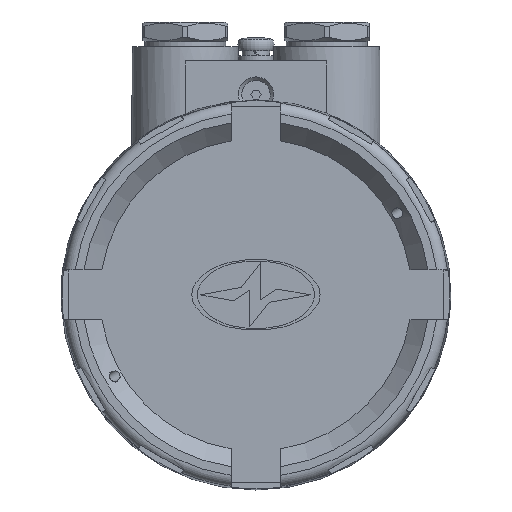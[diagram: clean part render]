
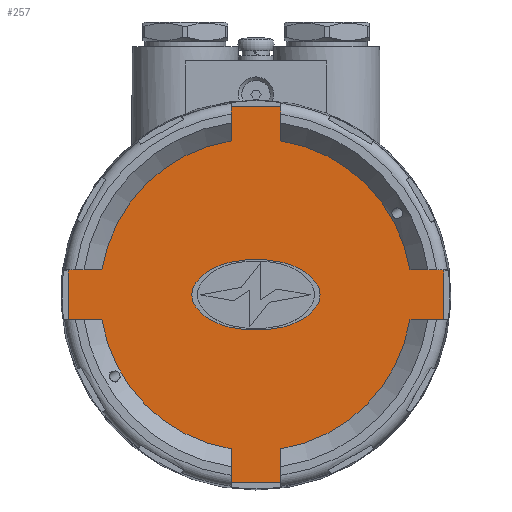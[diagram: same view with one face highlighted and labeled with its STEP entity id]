
A CAD part, top view. The second image highlights one B-rep face of the part: STEP entity #257.
In plain terms, the highlighted planar face has unit normal (0, 0, 1).
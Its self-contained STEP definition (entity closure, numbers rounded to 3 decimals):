
#257=ADVANCED_FACE('',(#1956,#1958),#1960,.T.);
#1956=FACE_BOUND('',#1957,.T.);
#1957=EDGE_LOOP('',(#5340,#5341,#5342,#5343,#5344,#5345,#5346,#5347,#5348,#5349,
#5350,#5351,#5352,#5353,#5354,#5355));
#1958=FACE_BOUND('',#1959,.T.);
#1959=EDGE_LOOP('',(#5356,#5357,#5358,#5359,#5360,#5361,#5362,#5363,#5364,#5365,
#5366,#5367));
#1960=PLANE('',#1961);
#1961=AXIS2_PLACEMENT_3D('',#1962,#1963,#1964);
#1962=CARTESIAN_POINT('',(0.,22.,110.));
#1963=DIRECTION('',(0.,0.,1.));
#1964=DIRECTION('',(-1.,0.,0.));
#5340=ORIENTED_EDGE('',*,*,#8758,.T.);
#5341=ORIENTED_EDGE('',*,*,#8585,.T.);
#5342=ORIENTED_EDGE('',*,*,#8759,.T.);
#5343=ORIENTED_EDGE('',*,*,#8560,.F.);
#5344=ORIENTED_EDGE('',*,*,#8757,.T.);
#5345=ORIENTED_EDGE('',*,*,#8675,.T.);
#5346=ORIENTED_EDGE('',*,*,#8760,.T.);
#5347=ORIENTED_EDGE('',*,*,#8650,.T.);
#5348=ORIENTED_EDGE('',*,*,#8761,.T.);
#5349=ORIENTED_EDGE('',*,*,#8645,.F.);
#5350=ORIENTED_EDGE('',*,*,#8762,.T.);
#5351=ORIENTED_EDGE('',*,*,#8620,.T.);
#5352=ORIENTED_EDGE('',*,*,#8763,.T.);
#5353=ORIENTED_EDGE('',*,*,#8615,.F.);
#5354=ORIENTED_EDGE('',*,*,#8764,.T.);
#5355=ORIENTED_EDGE('',*,*,#8590,.F.);
#5356=ORIENTED_EDGE('',*,*,#8765,.T.);
#5357=ORIENTED_EDGE('',*,*,#8766,.T.);
#5358=ORIENTED_EDGE('',*,*,#8767,.T.);
#5359=ORIENTED_EDGE('',*,*,#8768,.T.);
#5360=ORIENTED_EDGE('',*,*,#8769,.T.);
#5361=ORIENTED_EDGE('',*,*,#8770,.T.);
#5362=ORIENTED_EDGE('',*,*,#8771,.T.);
#5363=ORIENTED_EDGE('',*,*,#8772,.T.);
#5364=ORIENTED_EDGE('',*,*,#8773,.T.);
#5365=ORIENTED_EDGE('',*,*,#8774,.T.);
#5366=ORIENTED_EDGE('',*,*,#8775,.T.);
#5367=ORIENTED_EDGE('',*,*,#8776,.T.);
#8560=EDGE_CURVE('',#10570,#10571,#10572,.T.);
#8585=EDGE_CURVE('',#10610,#10608,#10611,.T.);
#8590=EDGE_CURVE('',#10618,#10619,#10620,.T.);
#8615=EDGE_CURVE('',#10656,#10658,#10659,.T.);
#8620=EDGE_CURVE('',#10666,#10667,#10668,.T.);
#8645=EDGE_CURVE('',#10704,#10706,#10707,.T.);
#8650=EDGE_CURVE('',#10714,#10715,#10716,.T.);
#8675=EDGE_CURVE('',#10754,#10752,#10755,.T.);
#8757=EDGE_CURVE('',#10570,#10754,#10892,.T.);
#8758=EDGE_CURVE('',#10618,#10610,#10893,.T.);
#8759=EDGE_CURVE('',#10608,#10571,#10894,.T.);
#8760=EDGE_CURVE('',#10752,#10714,#10895,.T.);
#8761=EDGE_CURVE('',#10715,#10706,#10896,.T.);
#8762=EDGE_CURVE('',#10704,#10666,#10897,.T.);
#8763=EDGE_CURVE('',#10667,#10658,#10898,.T.);
#8764=EDGE_CURVE('',#10656,#10619,#10899,.T.);
#8765=EDGE_CURVE('',#10900,#10901,#10902,.T.);
#8766=EDGE_CURVE('',#10901,#10903,#10904,.T.);
#8767=EDGE_CURVE('',#10903,#10905,#10906,.T.);
#8768=EDGE_CURVE('',#10905,#10907,#10908,.T.);
#8769=EDGE_CURVE('',#10907,#10909,#10910,.T.);
#8770=EDGE_CURVE('',#10909,#10911,#10912,.T.);
#8771=EDGE_CURVE('',#10911,#10913,#10914,.T.);
#8772=EDGE_CURVE('',#10913,#10915,#10916,.T.);
#8773=EDGE_CURVE('',#10915,#10917,#10918,.T.);
#8774=EDGE_CURVE('',#10917,#10919,#10920,.T.);
#8775=EDGE_CURVE('',#10919,#10921,#10922,.T.);
#8776=EDGE_CURVE('',#10921,#10900,#10923,.T.);
#10570=VERTEX_POINT('',#18067);
#10571=VERTEX_POINT('',#18068);
#10572=LINE('',#18069,#18070);
#10608=VERTEX_POINT('',#18548);
#10610=VERTEX_POINT('',#18562);
#10611=LINE('',#18563,#18564);
#10618=VERTEX_POINT('',#18580);
#10619=VERTEX_POINT('',#18581);
#10620=LINE('',#18582,#18583);
#10656=VERTEX_POINT('',#19059);
#10658=VERTEX_POINT('',#19073);
#10659=LINE('',#19074,#19075);
#10666=VERTEX_POINT('',#19091);
#10667=VERTEX_POINT('',#19092);
#10668=LINE('',#19093,#19094);
#10704=VERTEX_POINT('',#19568);
#10706=VERTEX_POINT('',#19582);
#10707=LINE('',#19583,#19584);
#10714=VERTEX_POINT('',#19600);
#10715=VERTEX_POINT('',#19601);
#10716=LINE('',#19602,#19603);
#10752=VERTEX_POINT('',#20081);
#10754=VERTEX_POINT('',#20095);
#10755=LINE('',#20096,#20097);
#10892=LINE('',#21049,#21050);
#10893=LINE('',#21052,#21053);
#10894=CIRCLE('',#21055,44.);
#10895=CIRCLE('',#21059,44.);
#10896=LINE('',#21063,#21064);
#10897=CIRCLE('',#21066,44.);
#10898=LINE('',#21070,#21071);
#10899=CIRCLE('',#21073,44.);
#10900=VERTEX_POINT('',#21077);
#10901=VERTEX_POINT('',#21078);
#10902=CIRCLE('',#21079,5.775);
#10903=VERTEX_POINT('',#21083);
#10904=CIRCLE('',#21084,13.094);
#10905=VERTEX_POINT('',#21088);
#10906=CIRCLE('',#21089,21.135);
#10907=VERTEX_POINT('',#21093);
#10908=CIRCLE('',#21094,32.596);
#10909=VERTEX_POINT('',#21098);
#10910=CIRCLE('',#21099,21.135);
#10911=VERTEX_POINT('',#21103);
#10912=CIRCLE('',#21104,13.094);
#10913=VERTEX_POINT('',#21108);
#10914=CIRCLE('',#21109,5.775);
#10915=VERTEX_POINT('',#21113);
#10916=CIRCLE('',#21114,13.094);
#10917=VERTEX_POINT('',#21118);
#10918=CIRCLE('',#21119,21.135);
#10919=VERTEX_POINT('',#21123);
#10920=CIRCLE('',#21124,32.596);
#10921=VERTEX_POINT('',#21128);
#10922=CIRCLE('',#21129,21.135);
#10923=CIRCLE('',#21133,13.094);
#18067=CARTESIAN_POINT('',(-53.,7.,110.));
#18068=CARTESIAN_POINT('',(-43.44,7.,110.));
#18069=CARTESIAN_POINT('',(-53.,7.,110.));
#18070=VECTOR('',#18071,1.);
#18071=DIRECTION('',(1.,0.,0.));
#18548=CARTESIAN_POINT('',(-7.,43.44,110.));
#18562=CARTESIAN_POINT('',(-7.,53.,110.));
#18563=CARTESIAN_POINT('',(-7.,53.,110.));
#18564=VECTOR('',#18565,1.);
#18565=DIRECTION('',(0.,-1.,0.));
#18580=CARTESIAN_POINT('',(7.,53.,110.));
#18581=CARTESIAN_POINT('',(7.,43.44,110.));
#18582=CARTESIAN_POINT('',(7.,53.,110.));
#18583=VECTOR('',#18584,1.);
#18584=DIRECTION('',(0.,-1.,0.));
#19059=CARTESIAN_POINT('',(43.44,7.,110.));
#19073=CARTESIAN_POINT('',(53.,7.,110.));
#19074=CARTESIAN_POINT('',(43.44,7.,110.));
#19075=VECTOR('',#19076,1.);
#19076=DIRECTION('',(1.,0.,0.));
#19091=CARTESIAN_POINT('',(43.44,-7.,110.));
#19092=CARTESIAN_POINT('',(53.,-7.,110.));
#19093=CARTESIAN_POINT('',(43.44,-7.,110.));
#19094=VECTOR('',#19095,1.);
#19095=DIRECTION('',(1.,0.,0.));
#19568=CARTESIAN_POINT('',(7.,-43.44,110.));
#19582=CARTESIAN_POINT('',(7.,-53.,110.));
#19583=CARTESIAN_POINT('',(7.,-43.44,110.));
#19584=VECTOR('',#19585,1.);
#19585=DIRECTION('',(0.,-1.,0.));
#19600=CARTESIAN_POINT('',(-7.,-43.44,110.));
#19601=CARTESIAN_POINT('',(-7.,-53.,110.));
#19602=CARTESIAN_POINT('',(-7.,-43.44,110.));
#19603=VECTOR('',#19604,1.);
#19604=DIRECTION('',(0.,-1.,0.));
#20081=CARTESIAN_POINT('',(-43.44,-7.,110.));
#20095=CARTESIAN_POINT('',(-53.,-7.,110.));
#20096=CARTESIAN_POINT('',(-53.,-7.,110.));
#20097=VECTOR('',#20098,1.);
#20098=DIRECTION('',(1.,0.,0.));
#21049=CARTESIAN_POINT('',(-53.,7.,110.));
#21050=VECTOR('',#21051,1.);
#21051=DIRECTION('',(0.,-1.,0.));
#21052=CARTESIAN_POINT('',(7.,53.,110.));
#21053=VECTOR('',#21054,1.);
#21054=DIRECTION('',(-1.,0.,0.));
#21055=AXIS2_PLACEMENT_3D('',#21056,#21057,#21058);
#21056=CARTESIAN_POINT('',(0.,0.,110.));
#21057=DIRECTION('',(0.,0.,1.));
#21058=DIRECTION('',(-0.159,0.987,0.));
#21059=AXIS2_PLACEMENT_3D('',#21060,#21061,#21062);
#21060=CARTESIAN_POINT('',(0.,0.,110.));
#21061=DIRECTION('',(0.,0.,1.));
#21062=DIRECTION('',(-0.987,-0.159,0.));
#21063=CARTESIAN_POINT('',(-7.,-53.,110.));
#21064=VECTOR('',#21065,1.);
#21065=DIRECTION('',(1.,0.,0.));
#21066=AXIS2_PLACEMENT_3D('',#21067,#21068,#21069);
#21067=CARTESIAN_POINT('',(0.,0.,110.));
#21068=DIRECTION('',(0.,0.,1.));
#21069=DIRECTION('',(0.159,-0.987,0.));
#21070=CARTESIAN_POINT('',(53.,-7.,110.));
#21071=VECTOR('',#21072,1.);
#21072=DIRECTION('',(0.,1.,0.));
#21073=AXIS2_PLACEMENT_3D('',#21074,#21075,#21076);
#21074=CARTESIAN_POINT('',(0.,0.,110.));
#21075=DIRECTION('',(0.,0.,1.));
#21076=DIRECTION('',(0.987,0.159,0.));
#21077=CARTESIAN_POINT('',(16.93,3.462,110.));
#21078=CARTESIAN_POINT('',(16.93,-3.462,110.));
#21079=AXIS2_PLACEMENT_3D('',#21080,#21081,#21082);
#21080=CARTESIAN_POINT('',(12.308,0.,110.));
#21081=DIRECTION('',(0.,0.,-1.));
#21082=DIRECTION('',(0.8,0.6,0.));
#21083=CARTESIAN_POINT('',(12.787,-7.071,110.));
#21084=AXIS2_PLACEMENT_3D('',#21085,#21086,#21087);
#21085=CARTESIAN_POINT('',(6.45,4.388,110.));
#21086=DIRECTION('',(0.,0.,-1.));
#21087=DIRECTION('',(0.8,-0.6,0.));
#21088=CARTESIAN_POINT('',(7.278,-9.177,110.));
#21089=AXIS2_PLACEMENT_3D('',#21090,#21091,#21092);
#21090=CARTESIAN_POINT('',(2.559,11.424,110.));
#21091=DIRECTION('',(0.,0.,-1.));
#21092=DIRECTION('',(0.484,-0.875,0.));
#21093=CARTESIAN_POINT('',(-7.278,-9.177,110.));
#21094=AXIS2_PLACEMENT_3D('',#21095,#21096,#21097);
#21095=CARTESIAN_POINT('',(0.,22.596,110.));
#21096=DIRECTION('',(0.,0.,-1.));
#21097=DIRECTION('',(0.223,-0.975,0.));
#21098=CARTESIAN_POINT('',(-12.787,-7.071,110.));
#21099=AXIS2_PLACEMENT_3D('',#21100,#21101,#21102);
#21100=CARTESIAN_POINT('',(-2.559,11.424,110.));
#21101=DIRECTION('',(0.,0.,-1.));
#21102=DIRECTION('',(-0.223,-0.975,0.));
#21103=CARTESIAN_POINT('',(-16.93,-3.462,110.));
#21104=AXIS2_PLACEMENT_3D('',#21105,#21106,#21107);
#21105=CARTESIAN_POINT('',(-6.45,4.388,110.));
#21106=DIRECTION('',(0.,0.,-1.));
#21107=DIRECTION('',(-0.484,-0.875,0.));
#21108=CARTESIAN_POINT('',(-16.93,3.462,110.));
#21109=AXIS2_PLACEMENT_3D('',#21110,#21111,#21112);
#21110=CARTESIAN_POINT('',(-12.308,0.,110.));
#21111=DIRECTION('',(0.,0.,-1.));
#21112=DIRECTION('',(-0.8,-0.6,0.));
#21113=CARTESIAN_POINT('',(-12.787,7.071,110.));
#21114=AXIS2_PLACEMENT_3D('',#21115,#21116,#21117);
#21115=CARTESIAN_POINT('',(-6.45,-4.388,110.));
#21116=DIRECTION('',(0.,0.,-1.));
#21117=DIRECTION('',(-0.8,0.6,0.));
#21118=CARTESIAN_POINT('',(-7.278,9.177,110.));
#21119=AXIS2_PLACEMENT_3D('',#21120,#21121,#21122);
#21120=CARTESIAN_POINT('',(-2.559,-11.424,110.));
#21121=DIRECTION('',(0.,0.,-1.));
#21122=DIRECTION('',(-0.484,0.875,0.));
#21123=CARTESIAN_POINT('',(7.278,9.177,110.));
#21124=AXIS2_PLACEMENT_3D('',#21125,#21126,#21127);
#21125=CARTESIAN_POINT('',(0.,-22.596,110.));
#21126=DIRECTION('',(0.,0.,-1.));
#21127=DIRECTION('',(-0.223,0.975,0.));
#21128=CARTESIAN_POINT('',(12.787,7.071,110.));
#21129=AXIS2_PLACEMENT_3D('',#21130,#21131,#21132);
#21130=CARTESIAN_POINT('',(2.559,-11.424,110.));
#21131=DIRECTION('',(0.,0.,-1.));
#21132=DIRECTION('',(0.223,0.975,0.));
#21133=AXIS2_PLACEMENT_3D('',#21134,#21135,#21136);
#21134=CARTESIAN_POINT('',(6.45,-4.388,110.));
#21135=DIRECTION('',(0.,0.,-1.));
#21136=DIRECTION('',(0.484,0.875,0.));
